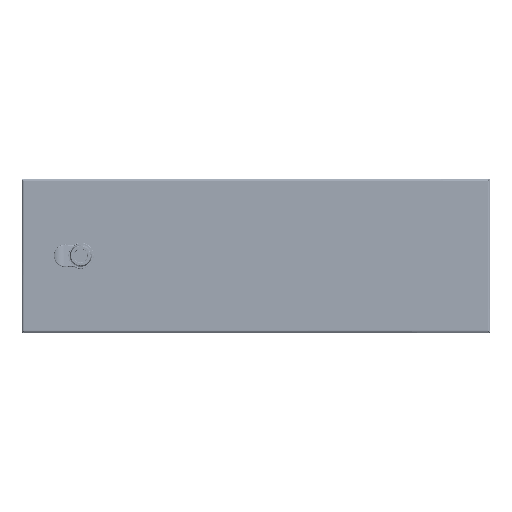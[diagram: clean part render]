
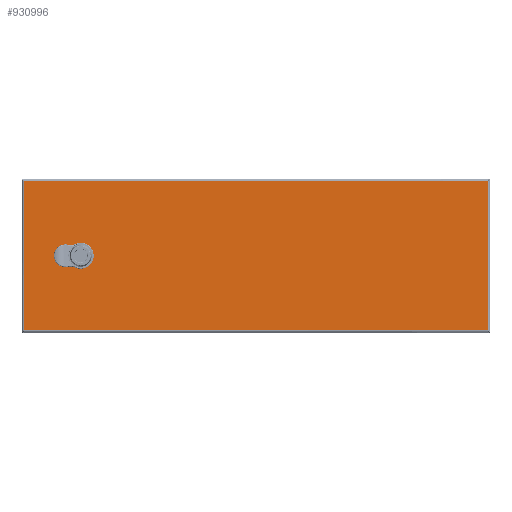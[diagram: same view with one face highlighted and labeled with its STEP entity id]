
A CAD part, top view. The second image highlights one B-rep face of the part: STEP entity #930996.
In plain terms, the highlighted planar face has unit normal (0, 0, 1).
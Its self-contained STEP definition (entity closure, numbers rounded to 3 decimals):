
#924866=CARTESIAN_POINT(' ',(351.085,154.96,78.753));
#924867=VERTEX_POINT(' ',#924866);
#925601=CARTESIAN_POINT(' ',(351.085,-34.44,78.753));
#925602=VERTEX_POINT(' ',#925601);
#926576=CARTESIAN_POINT(' ',(351.085,154.96,78.753));
#926581=DIRECTION(' ',(0.,-1.,0.));
#926586=VECTOR(' ',#926581,1.);
#926591=LINE('',#926576,#926586);
#926596=EDGE_CURVE(' ',#924867,#925602,#926591,.T.);
#928841=CARTESIAN_POINT(' ',(-237.315,-34.44,78.753));
#928842=VERTEX_POINT(' ',#928841);
#929456=CARTESIAN_POINT(' ',(-237.315,154.96,78.753));
#929457=VERTEX_POINT(' ',#929456);
#930866=DIRECTION(' ',(-0.,-0.,1.));
#930871=CARTESIAN_POINT(' ',(351.085,-34.44,78.753));
#930876=DIRECTION(' ',(0.,1.,0.));
#930881=AXIS2_PLACEMENT_3D(' ',#930871,#930866,#930876);
#930886=PLANE('NONE',#930881);
#930891=CARTESIAN_POINT(' ',(-237.315,-34.44,78.753));
#930896=DIRECTION(' ',(1.,0.,0.));
#930901=VECTOR(' ',#930896,1.);
#930906=LINE('',#930891,#930901);
#930911=EDGE_CURVE(' ',#928842,#925602,#930906,.T.);
#930916=ORIENTED_EDGE(' ',*,*,#930911,.T.);
#930921=ORIENTED_EDGE(' ',*,*,#926596,.F.);
#930926=CARTESIAN_POINT(' ',(351.085,154.96,78.753));
#930931=DIRECTION(' ',(-1.,0.,0.));
#930936=VECTOR(' ',#930931,1.);
#930941=LINE('',#930926,#930936);
#930946=EDGE_CURVE(' ',#924867,#929457,#930941,.T.);
#930951=ORIENTED_EDGE(' ',*,*,#930946,.T.);
#930956=CARTESIAN_POINT(' ',(-237.315,154.96,78.753));
#930961=DIRECTION(' ',(0.,-1.,0.));
#930966=VECTOR(' ',#930961,1.);
#930971=LINE('',#930956,#930966);
#930976=EDGE_CURVE(' ',#929457,#928842,#930971,.T.);
#930981=ORIENTED_EDGE(' ',*,*,#930976,.T.);
#930986=EDGE_LOOP(' ',(#930916,#930921,#930951,#930981));
#930991=FACE_OUTER_BOUND(' ',#930986,.T.);
#930996=ADVANCED_FACE('NONE',(#930991),#930886,.T.);
